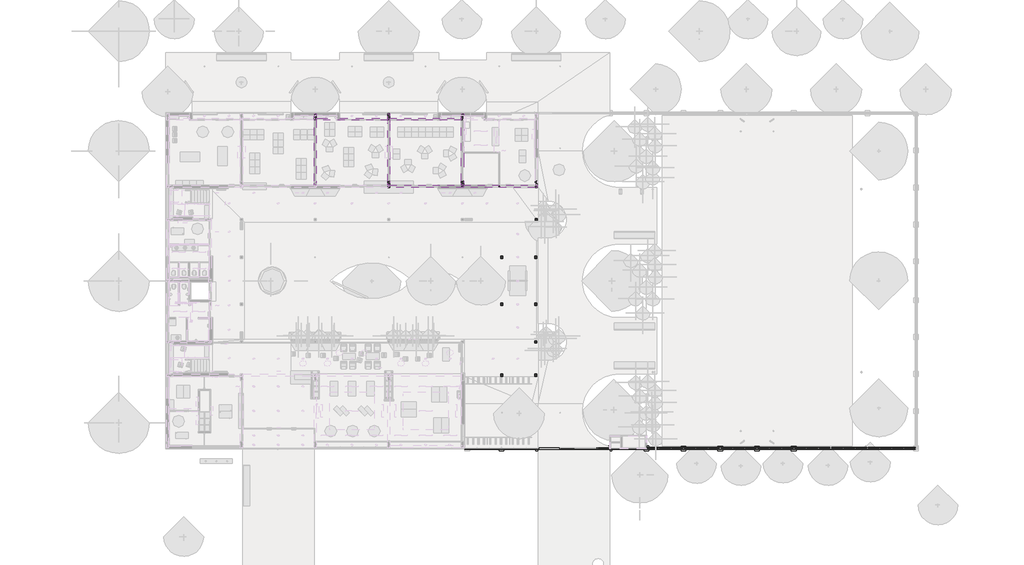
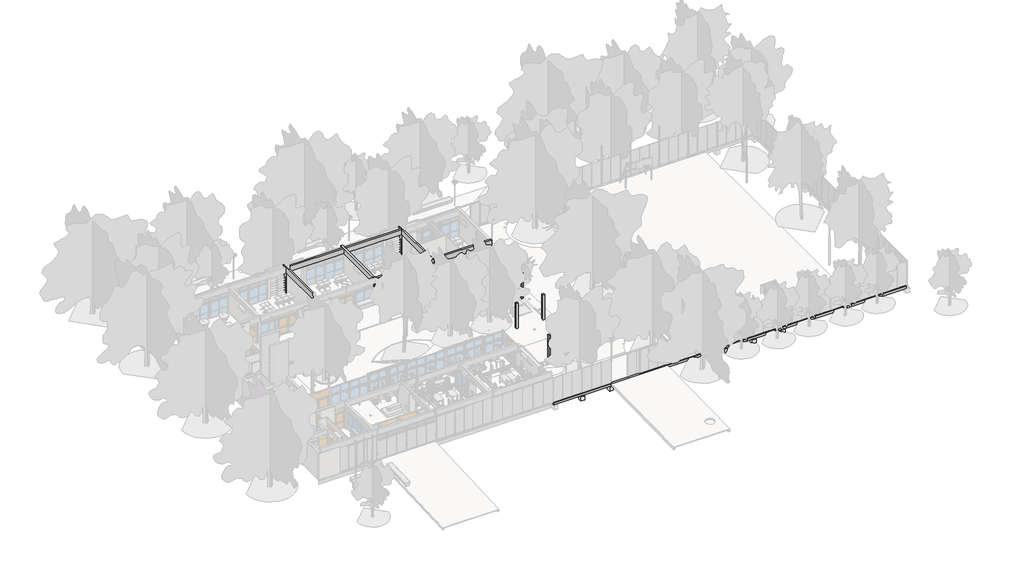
# One storey, part 15 of 22: 26 beams, 17 columns, 9 slabs.
"""IFC4 building model written with IfcOpenShell, lengths in millimetres."""

import ifcopenshell
import ifcopenshell.guid

model = None  # the IFC model being written
_history = None  # IfcOwnerHistory: only IFC2X3 demands one
_inside = {}  # id of a spatial element -> (the spatial element, [elements in it])
_under = {}  # id of a project, library or spatial element -> (it, [spatial elements below it])
_declared = {}  # id of a project -> (the project, [libraries it declares])
_typed = {}  # id of a type object -> (the type object, [elements of that type])
_made_of = {}  # id of a material, layer set ... -> (it, [elements and type objects made of it])


def new_model(schema):
    """Start an empty IFC model of exactly this schema.

    Asked for "IFC4X3", IfcOpenShell would pick the latest addendum, in which some entities
    have other attributes; the version numbers below select the first issue.
    IFC2X3 requires an IfcOwnerHistory on every rooted entity: one is made here for all.
    """
    global model, _history
    if schema == "IFC4X3":
        model = ifcopenshell.file(schema_version=(4, 3, 0, 0))
    else:
        model = ifcopenshell.file(schema=schema)
    _inside.clear()
    _under.clear()
    _declared.clear()
    _typed.clear()
    _made_of.clear()
    _history = None
    if model.schema == "IFC2X3":
        org = make("IfcOrganization", Name="unknown")
        user = make(
            "IfcPersonAndOrganization",
            ThePerson=make("IfcPerson", FamilyName="unknown"),
            TheOrganization=org,
        )
        app = make(
            "IfcApplication",
            ApplicationDeveloper=org,
            Version="unknown",
            ApplicationFullName="unknown",
            ApplicationIdentifier="unknown",
        )
        _history = make(
            "IfcOwnerHistory",
            OwningUser=user,
            OwningApplication=app,
            ChangeAction="ADDED",
            CreationDate=0,
        )
    return model


def make(cls, **values):
    """One entity of the class cls with the attributes given. An attribute that is None is left unset."""
    return model.create_entity(
        cls, **{name: value for name, value in values.items() if value is not None}
    )


def rooted(cls, **values):
    """An entity with a GlobalId (a new one), such as an element, a storey or a relation."""
    return make(cls, GlobalId=ifcopenshell.guid.new(), OwnerHistory=_history, **values)


def si_unit(unit_type, name, prefix=None):
    """IfcSIUnit, for example si_unit("LENGTHUNIT", "METRE", prefix="MILLI")."""
    return make("IfcSIUnit", UnitType=unit_type, Prefix=prefix, Name=name)


def assignment(units):
    """IfcUnitAssignment: the units of a project."""
    return None if units is None else make("IfcUnitAssignment", Units=units)


def point(xyz):
    """IfcCartesianPoint."""
    return None if xyz is None else make("IfcCartesianPoint", Coordinates=xyz)


def direction(xyz):
    """IfcDirection."""
    return None if xyz is None else make("IfcDirection", DirectionRatios=xyz)


def frame(location, z_axis=None, x_axis=None):
    """IfcAxis2Placement3D, a coordinate frame: its origin and axes. An axis left out is left unset."""
    return make(
        "IfcAxis2Placement3D",
        Location=point(location),
        Axis=direction(z_axis),
        RefDirection=direction(x_axis),
    )


def origin():
    """The frame at (0, 0, 0) with its axes left unset."""
    return frame((0.0, 0.0, 0.0))


def origin_with_axes():
    """The frame at (0, 0, 0) with the z axis (0, 0, 1) and the x axis (1, 0, 0) written out."""
    return frame((0.0, 0.0, 0.0), z_axis=(0.0, 0.0, 1.0), x_axis=(1.0, 0.0, 0.0))


def place(relative_to, where):
    """IfcLocalPlacement: puts the frame where relative to a parent placement (None: the world)."""
    return make(
        "IfcLocalPlacement", PlacementRelTo=relative_to, RelativePlacement=where
    )


def context(
    kind, dimensions, precision=None, world=None, true_north=None, identifier=None
):
    """IfcGeometricRepresentationContext, for example the 3D "Model" context."""
    return make(
        "IfcGeometricRepresentationContext",
        ContextIdentifier=identifier,
        ContextType=kind,
        CoordinateSpaceDimension=dimensions,
        Precision=precision,
        WorldCoordinateSystem=world,
        TrueNorth=true_north,
    )


def project(units=None, contexts=None):
    """IfcProject with its units and contexts."""
    return rooted(
        "IfcProject",
        Name="project",
        RepresentationContexts=contexts,
        UnitsInContext=assignment(units),
    )


def spatial(cls, under=None, at=None, **own):
    """A site, building, storey or space (cls), placed at a placement, below another one or the project."""
    s = rooted(cls, ObjectPlacement=at, **own)
    if under is not None:
        _under.setdefault(under.id(), (under, []))[1].append(s)
    return s


def polyline(points):
    """IfcPolyline through the points."""
    return make("IfcPolyline", Points=[point(p) for p in points])


def outline(outer, holes=None, kind="AREA"):
    """IfcArbitraryClosedProfileDef: a profile drawn as a closed curve; with holes, ...WithVoids."""
    if holes is None:
        return make("IfcArbitraryClosedProfileDef", ProfileType=kind, OuterCurve=outer)
    return make(
        "IfcArbitraryProfileDefWithVoids",
        ProfileType=kind,
        OuterCurve=outer,
        InnerCurves=holes,
    )


def extrude(swept, where, along, depth):
    """IfcExtrudedAreaSolid: the profile swept, set in the frame where, extruded along a direction by depth."""
    return make(
        "IfcExtrudedAreaSolid",
        SweptArea=swept,
        Position=where,
        ExtrudedDirection=direction(along),
        Depth=depth,
    )


def faces_of(points, faces, orient=None, outer=None):
    """IfcFace entities. A face is a list of loops; a loop is a list of indices into points, from 0.

    orient and outer hold one flag for each loop. By default every Orientation is true, the
    first loop of a face is its IfcFaceOuterBound and the others are IfcFaceBound.
    """
    made = []
    for i, loops in enumerate(faces):
        bounds = []
        for j, loop in enumerate(loops):
            is_outer = j == 0 if outer is None else outer[i][j]
            bounds.append(
                make(
                    "IfcFaceOuterBound" if is_outer else "IfcFaceBound",
                    Bound=make("IfcPolyLoop", Polygon=[points[k] for k in loop]),
                    Orientation=True if orient is None else orient[i][j],
                )
            )
        made.append(make("IfcFace", Bounds=bounds))
    return made


def faceted_brep(points, faces, orient=None, outer=None, voids=None):
    """IfcFacetedBrep: a solid bounded by flat faces; with voids (closed shells), ...WithVoids."""
    shared = [point(p) for p in points]
    hull = make("IfcClosedShell", CfsFaces=faces_of(shared, faces, orient, outer))
    if voids is None:
        return make("IfcFacetedBrep", Outer=hull)
    return make(
        "IfcFacetedBrepWithVoids",
        Outer=hull,
        Voids=[
            make(cls, CfsFaces=faces_of(shared, fs, o, b)) for cls, fs, o, b in voids
        ],
    )


def shape(context_of_items, identifier, shape_type, items):
    """IfcShapeRepresentation: the items that make up one representation, for example the "Body"."""
    return make(
        "IfcShapeRepresentation",
        ContextOfItems=context_of_items,
        RepresentationIdentifier=identifier,
        RepresentationType=shape_type,
        Items=items,
    )


def made_of(thing, what):
    """Note that an element or type object is made of a material, layer set ...; save() writes the relation."""
    if what is not None:
        _made_of.setdefault(what.id(), (what, []))[1].append(thing)
    return thing


def element(
    cls,
    number,
    at=None,
    inside=None,
    cuts=None,
    type_object=None,
    material=None,
    context=None,
    identifier="Body",
    shape_type=None,
    held_by="IfcProductDefinitionShape",
    body=None,
    shapes=None,
    **own,
):
    """One element of the class cls, such as IfcWall. Its Tag is "e" and its number.

    at: its placement. inside: the storey or other place that contains it. cuts: it is an
    opening in that element (IfcRelVoidsElement). A single representation is given by context,
    identifier, shape_type and body (its items); several are given by shapes. held_by: the class
    of the entity that holds the representations. save() writes the other relations.
    """
    e = rooted(cls, Tag="e%d" % number, ObjectPlacement=at, **own)
    if body is not None:
        shapes = [shape(context, identifier, shape_type, body)]
    if shapes is not None:
        e.Representation = make(held_by, Representations=shapes)
    if inside is not None:
        _inside.setdefault(inside.id(), (inside, []))[1].append(e)
    if cuts is not None:
        rooted(
            "IfcRelVoidsElement", RelatingBuildingElement=cuts, RelatedOpeningElement=e
        )
    if type_object is not None:
        _typed.setdefault(type_object.id(), (type_object, []))[1].append(e)
    return made_of(e, material)


def aggregate(whole, parts):
    """IfcRelAggregates: a whole, such as a stair, and the parts it consists of."""
    return rooted("IfcRelAggregates", RelatingObject=whole, RelatedObjects=parts)


def save(model, path):
    """Write the relations noted so far, then the file.

    IfcRelAggregates (storeys below a building ...), IfcRelContainedInSpatialStructure (elements
    in a storey), IfcRelDefinesByType, IfcRelAssociatesMaterial and IfcRelDeclares: one each for
    every whole, place, type object, material and project.
    """
    for whole, parts in _under.values():
        aggregate(whole, parts)
    for where, things in _inside.values():
        rooted(
            "IfcRelContainedInSpatialStructure",
            RelatedElements=things,
            RelatingStructure=where,
        )
    for kind, things in _typed.values():
        rooted("IfcRelDefinesByType", RelatedObjects=things, RelatingType=kind)
    for what, things in _made_of.values():
        rooted("IfcRelAssociatesMaterial", RelatedObjects=things, RelatingMaterial=what)
    for by, libraries in _declared.values():
        rooted("IfcRelDeclares", RelatingContext=by, RelatedDefinitions=libraries)
    model.write(path)


model = new_model("IFC4")

# Units and contexts
model_context = context("Model", 3, world=origin())
ifc_project = project(units=[si_unit("LENGTHUNIT", "METRE", prefix="MILLI")], contexts=[model_context])

# Site, building, storey
site = spatial("IfcSite", under=ifc_project)
building = spatial("IfcBuilding", under=site)
storey = spatial("IfcBuildingStorey", under=building, Name="PLanta baja", Elevation=0.0)

# Beams
placement = place(None, origin())
element("IfcBeam", 1, ObjectType="ARES-I-HA-Viga rectangular-PET : EXT 200 x 300 mm", at=placement, inside=storey, context=model_context, shape_type="Brep", body=[
    faceted_brep([(31118.8673693, 160.2304035, -350.0), (31118.8673693, 160.2304035, -56.0237526), (31118.8673693, 160.2304035, -50.0), (31118.8673693, 360.2304035, -50.0), (31118.8673693, 360.2304035, -54.9889981), (31118.8673693, 360.2304035, -90.0), (31118.8673693, 360.2304035, -140.0), (31118.8673693, 360.2304035, -350.0), (73288.7173693, 160.2304035, -50.0), (73288.7173693, 360.2304035, -50.0), (48058.7173693, 360.2304035, -50.0), (48058.7173693, 310.2304035, -50.0), (44788.7173693, 310.2304035, -50.0), (44788.7173693, 360.2304035, -50.0), (44688.7173693, 360.2304035, -50.0), (37998.4930104, 360.2304035, -50.0), (44788.7173693, 360.2304035, -54.9017631), (44788.7173693, 360.2304035, -80.0), (48058.7173693, 360.2304035, -80.0), (48058.7173693, 360.2304035, -52.5661791), (73288.7173693, 360.2304035, -54.6606618), (73288.7173693, 360.2304035, -350.0), (44395.985253, 360.2304035, -350.0), (37998.4930104, 360.2304035, -350.0), (73288.7173693, 160.2304035, -350.0), (44788.7173693, 310.2304035, -80.0), (48058.7173693, 310.2304035, -80.0)], [[[0, 1, 2, 3, 4, 5, 6, 7]], [[3, 2, 8, 9, 10, 11, 12, 13, 14, 15]], [[7, 6, 5, 4, 3, 15, 14, 13, 16, 17, 18, 19, 10, 9, 20, 21, 22, 23]], [[0, 7, 23, 22, 21, 24]], [[2, 1, 0, 24, 8]], [[9, 8, 24, 21, 20]], [[25, 26, 18, 17]], [[18, 26, 11, 10, 19]], [[26, 25, 12, 11]], [[25, 17, 16, 13, 12]]]),
])
element("IfcBeam", 2, ObjectType="ARES-I-HA-Viga rectangular-PET : Viga-15x36cm-PET", at=placement, inside=storey, context=model_context, shape_type="Brep", body=[
    faceted_brep([(23888.7423694, 28245.2304035, -50.0), (23888.7423694, 28095.2304035, -50.0), (23888.7423694, 28095.2304035, -160.0), (23888.7423694, 28095.2304035, -410.0), (23888.7423694, 28245.2304035, -410.0), (23888.7423694, 28245.2304035, -160.0), (20613.7173694, 28245.2304035, -50.0), (20463.7173694, 28245.2304035, -50.0), (17188.7173694, 28245.2304035, -50.0), (17188.7173694, 28095.2304035, -50.0), (20463.7173694, 28095.2304035, -50.0), (20613.7173694, 28095.2304035, -50.0), (17188.7173694, 28095.2304035, -410.0), (20463.7173694, 28095.2304035, -410.0), (20613.7173694, 28095.2304035, -410.0), (17188.7173694, 28095.2304035, -160.0), (17188.7173694, 28245.2304035, -410.0), (20463.7173694, 28245.2304035, -410.0), (20613.7173694, 28245.2304035, -410.0), (17188.7173694, 28245.2304035, -160.0)], [[[0, 1, 2, 3, 4, 5]], [[1, 0, 6, 7, 8, 9, 10, 11]], [[12, 13, 14, 3, 2, 1, 11, 10, 9, 15]], [[4, 3, 14, 13, 12, 16, 17, 18]], [[4, 18, 17, 16, 19, 8, 7, 6, 0, 5]], [[9, 8, 19, 16, 12, 15]]]),
])
element("IfcBeam", 3, ObjectType="ARES-I-HA-Viga rectangular-PET : Viga-15x36cm-PET", at=placement, inside=storey, context=model_context, shape_type="Brep", body=[
    faceted_brep([(20613.7173694, 28095.2304035, -50.0), (20463.7173694, 28095.2304035, -50.0), (20463.7173694, 24920.2304035, -50.0), (20613.7173694, 24920.2304035, -50.0), (20463.7173694, 28095.2304035, -160.0), (20463.7173694, 28095.2304035, -410.0), (20463.7173694, 24920.2304035, -410.0), (20463.7173694, 24920.2304035, -160.0), (20613.7173694, 28095.2304035, -410.0), (20613.7173694, 24920.2304035, -410.0), (20613.7173694, 24920.2304035, -160.0), (20613.7173694, 28095.2304035, -160.0)], [[[0, 1, 2, 3]], [[2, 1, 4, 5, 6, 7]], [[5, 8, 9, 6]], [[0, 3, 10, 9, 8, 11]], [[8, 5, 4, 1, 0, 11]], [[3, 2, 7, 6, 9, 10]]]),
    faceted_brep([(20463.7173694, 28245.2304035, -410.0), (20613.7173694, 28245.2304035, -410.0), (20613.7173694, 28245.2304035, -160.0), (20613.7173694, 28245.2304035, -50.0), (20463.7173694, 28245.2304035, -50.0), (20463.7173694, 28245.2304035, -160.0), (20463.7173694, 31420.2304035, -50.0), (20463.7173694, 31420.2304035, -160.0), (20463.7173694, 31420.2304035, -410.0), (20613.7173694, 31420.2304035, -410.0), (20613.7173694, 31420.2304035, -160.0), (20613.7173694, 31420.2304035, -50.0)], [[[0, 1, 2, 3, 4, 5]], [[4, 6, 7, 8, 0, 5]], [[1, 0, 8, 9]], [[1, 9, 10, 11, 3, 2]], [[4, 3, 11, 6]], [[9, 8, 7, 6, 11, 10]]]),
])
element("IfcBeam", 4, ObjectType="ARES-I-HA-Viga rectangular-PET : Viga-15x36cm-PET", at=placement, inside=storey, context=model_context, shape_type="Brep", body=[
    faceted_brep([(30788.7423694, 28245.2304035, -50.0), (30788.7423694, 28095.2304035, -50.0), (30788.7423694, 28095.2304035, -160.0), (30788.7423694, 28095.2304035, -410.0), (30788.7423694, 28245.2304035, -410.0), (30788.7423694, 28245.2304035, -160.0), (27513.7173693, 28245.2304035, -50.0), (27363.7173693, 28245.2304035, -50.0), (24088.7173694, 28245.2304035, -50.0), (24088.7173694, 28095.2304035, -50.0), (27363.7173693, 28095.2304035, -50.0), (27513.7173693, 28095.2304035, -50.0), (24088.7173694, 28095.2304035, -410.0), (27363.7173693, 28095.2304035, -410.0), (27513.7173693, 28095.2304035, -410.0), (24088.7173694, 28095.2304035, -160.0), (24088.7173694, 28245.2304035, -410.0), (27363.7173693, 28245.2304035, -410.0), (27513.7173693, 28245.2304035, -410.0), (24088.7173694, 28245.2304035, -160.0)], [[[0, 1, 2, 3, 4, 5]], [[1, 0, 6, 7, 8, 9, 10, 11]], [[12, 13, 14, 3, 2, 1, 11, 10, 9, 15]], [[4, 3, 14, 13, 12, 16, 17, 18]], [[4, 18, 17, 16, 19, 8, 7, 6, 0, 5]], [[9, 8, 19, 16, 12, 15]]]),
])
element("IfcBeam", 5, ObjectType="ARES-I-HA-Viga rectangular-PET : Viga-15x36cm-PET", at=placement, inside=storey, context=model_context, shape_type="Brep", body=[
    faceted_brep([(27513.7173693, 28095.2304035, -50.0), (27363.7173693, 28095.2304035, -50.0), (27363.7173693, 24920.2304035, -50.0), (27513.7173693, 24920.2304035, -50.0), (27363.7173693, 28095.2304035, -160.0), (27363.7173693, 28095.2304035, -410.0), (27363.7173693, 24920.2304035, -410.0), (27363.7173693, 24920.2304035, -160.0), (27513.7173693, 28095.2304035, -410.0), (27513.7173693, 24920.2304035, -410.0), (27513.7173693, 24920.2304035, -160.0), (27513.7173693, 28095.2304035, -160.0)], [[[0, 1, 2, 3]], [[2, 1, 4, 5, 6, 7]], [[5, 8, 9, 6]], [[0, 3, 10, 9, 8, 11]], [[8, 5, 4, 1, 0, 11]], [[3, 2, 7, 6, 9, 10]]]),
    faceted_brep([(27363.7173693, 28245.2304035, -410.0), (27513.7173693, 28245.2304035, -410.0), (27513.7173693, 28245.2304035, -160.0), (27513.7173693, 28245.2304035, -50.0), (27363.7173693, 28245.2304035, -50.0), (27363.7173693, 28245.2304035, -160.0), (27363.7173693, 31420.2304035, -50.0), (27363.7173693, 31420.2304035, -160.0), (27363.7173693, 31420.2304035, -410.0), (27513.7173693, 31420.2304035, -410.0), (27513.7173693, 31420.2304035, -160.0), (27513.7173693, 31420.2304035, -50.0)], [[[0, 1, 2, 3, 4, 5]], [[4, 6, 7, 8, 0, 5]], [[1, 0, 8, 9]], [[1, 9, 10, 11, 3, 2]], [[4, 3, 11, 6]], [[9, 8, 7, 6, 11, 10]]]),
])
element("IfcBeam", 6, ObjectType="ARES-I-HA-Viga rectangular-PET : Viga-15x36cm-PET", at=placement, inside=storey, context=model_context, shape_type="Brep", body=[
    faceted_brep([(34413.7173693, 24720.2304035, -80.0), (34263.7173693, 24720.2304035, -80.0), (34263.7173693, 21820.2304035, -80.0), (34413.7173693, 21820.2304035, -80.0), (34263.7173693, 24720.2304035, -190.0), (34263.7173693, 24720.2304035, -440.0), (34263.7173693, 21820.2304035, -440.0), (34263.7173693, 21820.2304035, -190.0), (34413.7173693, 24720.2304035, -440.0), (34413.7173693, 21820.2304035, -440.0), (34413.7173693, 21820.2304035, -190.0), (34413.7173693, 24720.2304035, -190.0)], [[[0, 1, 2, 3]], [[2, 1, 4, 5, 6, 7]], [[5, 8, 9, 6]], [[0, 3, 10, 9, 8, 11]], [[1, 0, 11, 8, 5, 4]], [[3, 2, 7, 6, 9, 10]]]),
])
element("IfcBeam", 7, ObjectType="ARES-I-HA-Viga rectangular-PET : Viga-20x40cm-PET", at=placement, inside=storey, context=model_context, shape_type="Brep", body=[
    faceted_brep([(30788.7173693, 10320.2304035, -300.0), (30788.7173693, 10120.2304035, -300.0), (30988.7173693, 10120.2304035, -300.0), (31098.7173693, 10120.2304035, -300.0), (34488.7173693, 10120.2304035, -300.0), (34688.7173693, 10120.2304035, -300.0), (37648.7173693, 10120.2304035, -300.0), (37648.7173693, 10320.2304035, -300.0), (34688.7173693, 10320.2304035, -300.0), (34488.7173693, 10320.2304035, -300.0), (31098.7173693, 10320.2304035, -300.0), (30988.7173693, 10320.2304035, -300.0), (30788.7173693, 10120.2304035, -550.0), (30788.7173693, 10120.2304035, -650.0), (30788.7173693, 10120.2304035, -700.0), (34488.7173693, 10120.2304035, -700.0), (34688.7173693, 10120.2304035, -700.0), (37648.7173693, 10120.2304035, -700.0), (30788.7173693, 10320.2304035, -700.0), (34488.7173693, 10320.2304035, -700.0), (34688.7173693, 10320.2304035, -700.0), (37648.7173693, 10320.2304035, -700.0), (30788.7173693, 10320.2304035, -650.0)], [[[0, 1, 2, 3, 4, 5, 6, 7, 8, 9, 10, 11]], [[1, 12, 13, 14, 15, 16, 17, 6, 5, 4, 3, 2]], [[14, 18, 19, 20, 21, 17, 16, 15]], [[18, 22, 0, 11, 10, 9, 8, 7, 21, 20, 19]], [[1, 0, 22, 18, 14, 13, 12]], [[7, 6, 17, 21]]]),
])
element("IfcBeam", 8, ObjectType="ARES-I-HA-Viga rectangular-PET : Viga-20x40cm-PET", at=placement, inside=storey, context=model_context, shape_type="Brep", body=[
    faceted_brep([(30988.7173693, 7220.2304035, -300.0), (30988.7173693, 7020.2304035, -300.0), (34488.7173693, 7020.2304035, -300.0), (34688.7173693, 7020.2304035, -300.0), (37648.7173693, 7020.2304035, -300.0), (37648.7173693, 7220.2304035, -300.0), (34688.7173693, 7220.2304035, -300.0), (34488.7173693, 7220.2304035, -300.0), (31098.7173693, 7220.2304035, -300.0), (30988.7173693, 7020.2304035, -700.0), (37648.7173693, 7020.2304035, -700.0), (30988.7173693, 7220.2304035, -700.0), (34488.7173693, 7220.2304035, -700.0), (34688.7173693, 7220.2304035, -700.0), (37648.7173693, 7220.2304035, -700.0), (30988.7173693, 7220.2304035, -550.0), (30988.7173693, 7220.2304035, -510.0)], [[[0, 1, 2, 3, 4, 5, 6, 7, 8]], [[1, 9, 10, 4, 3, 2]], [[9, 11, 12, 13, 14, 10]], [[11, 15, 16, 0, 8, 7, 6, 5, 14, 13, 12]], [[0, 16, 15, 11, 9, 1]], [[5, 4, 10, 14]]]),
])
element("IfcBeam", 9, ObjectType="ARES-I-HA-Viga rectangular-PET : Viga-20x40cm-PET", at=placement, inside=storey, context=model_context, shape_type="SweptSolid", body=[
    extrude(outline(polyline([(34488.7173693, 10120.2304035), (34688.7173693, 10120.2304035), (34688.7173693, 7220.2304035), (34488.7173693, 7220.2304035), (34488.7173693, 10120.2304035)])), frame((0.0, 0.0, -700.0), z_axis=(0.0, 0.0, 1.0), x_axis=(1.0, 0.0, 0.0)), (0.0, 0.0, 1.0), 400.0),
])
element("IfcBeam", 10, ObjectType="ARES-I-HA-Viga rectangular-PET : Viga-20x40cm-PET", at=placement, inside=storey, context=model_context, shape_type="Brep", body=[
    faceted_brep([(37748.7173693, 13670.2304035, -300.0), (37748.7173693, 13870.2304035, -300.0), (37648.7173693, 13870.2304035, -300.0), (34688.7173693, 13870.2304035, -300.0), (34588.7173693, 13870.2304035, -300.0), (34588.7173693, 13670.2304035, -300.0), (34688.7173693, 13670.2304035, -300.0), (37648.7173693, 13670.2304035, -300.0), (37748.7173693, 13670.2304035, -700.0), (34588.7173693, 13670.2304035, -700.0), (34688.7173693, 13670.2304035, -700.0), (37648.7173693, 13670.2304035, -700.0), (37748.7173693, 13870.2304035, -700.0), (34588.7173693, 13870.2304035, -700.0), (34688.7173693, 13870.2304035, -700.0), (37648.7173693, 13870.2304035, -700.0)], [[[0, 1, 2, 3, 4, 5, 6, 7]], [[8, 0, 7, 6, 5, 9, 10, 11]], [[12, 8, 11, 10, 9, 13, 14, 15]], [[1, 12, 15, 14, 13, 4, 3, 2]], [[4, 13, 9, 5]], [[1, 0, 8, 12]]]),
])
element("IfcBeam", 11, ObjectType="ARES-I-HA-Viga rectangular-PET : Viga-20x40cm-PET", at=placement, inside=storey, context=model_context, shape_type="SweptSolid", body=[
    extrude(outline(polyline([(34688.7173693, 18070.2304035), (34688.7173693, 18270.2304035), (37648.7173693, 18270.2304035), (37648.7173693, 18070.2304035), (34688.7173693, 18070.2304035)])), frame((0.0, 0.0, -700.0), z_axis=(0.0, 0.0, 1.0), x_axis=(1.0, 0.0, 0.0)), (0.0, 0.0, 1.0), 400.0),
])
element("IfcBeam", 12, ObjectType="ARES-I-HA-Viga rectangular-PET : Viga-20x45cm-PET", at=placement, inside=storey, context=model_context, shape_type="Brep", body=[
    faceted_brep([(37848.7173693, 10320.2304035, -300.0), (37648.7173693, 10320.2304035, -300.0), (37648.7173693, 10120.2304035, -300.0), (37648.7173693, 7220.2304035, -300.0), (37648.7173693, 7020.2304035, -300.0), (37848.7173693, 7020.2304035, -300.0), (37848.7173693, 7220.2304035, -300.0), (37848.7173693, 10120.2304035, -300.0), (37848.7173693, 10320.2304035, -750.0), (37848.7173693, 7020.2304035, -750.0), (37648.7173693, 10320.2304035, -750.0), (37648.7173693, 7020.2304035, -750.0), (37648.7173693, 10320.2304035, -700.0), (37648.7173693, 7020.2304035, -700.0)], [[[0, 1, 2, 3, 4, 5, 6, 7]], [[8, 0, 7, 6, 5, 9]], [[10, 8, 9, 11]], [[1, 12, 10, 11, 13, 4, 3, 2]], [[1, 0, 8, 10, 12]], [[5, 4, 13, 11, 9]]]),
])
element("IfcBeam", 13, ObjectType="ARES-I-HA-Viga rectangular-PET : Viga-20x45cm-PET", at=placement, inside=storey, context=model_context, shape_type="Brep", body=[
    faceted_brep([(34688.7173693, 18270.2304035, -300.0), (34488.7173693, 18270.2304035, -300.0), (34488.7173693, 13870.2304035, -300.0), (34488.7173693, 13670.2304035, -300.0), (34488.7173693, 10320.2304035, -300.0), (34688.7173693, 10320.2304035, -300.0), (34688.7173693, 13670.2304035, -300.0), (34588.7173693, 13670.2304035, -300.0), (34588.7173693, 13870.2304035, -300.0), (34688.7173693, 13870.2304035, -300.0), (34688.7173693, 18070.2304035, -300.0), (34488.7173693, 18270.2304035, -750.0), (34488.7173693, 10120.2304035, -750.0), (34488.7173693, 10120.2304035, -700.0), (34488.7173693, 10320.2304035, -700.0), (34688.7173693, 18270.2304035, -750.0), (34688.7173693, 10120.2304035, -750.0), (34688.7173693, 18270.2304035, -700.0), (34688.7173693, 13870.2304035, -700.0), (34688.7173693, 13670.2304035, -700.0), (34688.7173693, 10320.2304035, -700.0), (34688.7173693, 10120.2304035, -700.0), (34588.7173693, 13670.2304035, -700.0), (34588.7173693, 13870.2304035, -700.0)], [[[0, 1, 2, 3, 4, 5, 6, 7, 8, 9, 10]], [[1, 11, 12, 13, 14, 4, 3, 2]], [[11, 15, 16, 12]], [[15, 17, 0, 10, 9, 18, 19, 6, 5, 20, 21, 16]], [[1, 0, 17, 15, 11]], [[12, 16, 21, 13]], [[14, 13, 21, 20]], [[5, 4, 14, 20]], [[22, 7, 6, 19]], [[23, 22, 19, 18]], [[8, 23, 18, 9]], [[7, 22, 23, 8]]]),
])
element("IfcBeam", 14, ObjectType="ARES-I-HA-Viga rectangular-PET : Viga-20x45cm-PET", at=placement, inside=storey, context=model_context, shape_type="Brep", body=[
    faceted_brep([(37848.7173693, 18270.2304035, -300.0), (37648.7173693, 18270.2304035, -300.0), (37648.7173693, 18070.2304035, -300.0), (37648.7173693, 13870.2304035, -300.0), (37748.7173693, 13870.2304035, -300.0), (37748.7173693, 13670.2304035, -300.0), (37648.7173693, 13670.2304035, -300.0), (37648.7173693, 10320.2304035, -300.0), (37848.7173693, 10320.2304035, -300.0), (37848.7173693, 13670.2304035, -300.0), (37848.7173693, 13870.2304035, -300.0), (37648.7173693, 18270.2304035, -700.0), (37648.7173693, 18270.2304035, -750.0), (37648.7173693, 10320.2304035, -750.0), (37648.7173693, 10320.2304035, -700.0), (37648.7173693, 13670.2304035, -700.0), (37648.7173693, 13870.2304035, -700.0), (37848.7173693, 18270.2304035, -750.0), (37848.7173693, 10320.2304035, -750.0), (37748.7173693, 13670.2304035, -700.0), (37748.7173693, 13870.2304035, -700.0)], [[[0, 1, 2, 3, 4, 5, 6, 7, 8, 9, 10]], [[1, 11, 12, 13, 14, 7, 6, 15, 16, 3, 2]], [[12, 17, 18, 13]], [[17, 0, 10, 9, 8, 18]], [[1, 0, 17, 12, 11]], [[5, 19, 15, 6]], [[19, 20, 16, 15]], [[20, 4, 3, 16]], [[19, 5, 4, 20]], [[8, 7, 14, 13, 18]]]),
])
element("IfcBeam", 15, ObjectType="ARES-I-HA-Viga rectangular-PET : Viga-20x50cm-PET", at=placement, inside=storey, context=model_context, shape_type="Brep", body=[
    faceted_brep([(37888.7173693, 24720.3804035, -80.0), (37688.7173693, 24720.3804035, -80.0), (37688.7173693, 21820.2304035, -80.0), (37888.7173693, 21820.2304035, -80.0), (37688.7173693, 24720.3804035, -190.0), (37688.7173693, 24720.3804035, -580.0), (37688.7173693, 21820.2304035, -580.0), (37688.7173693, 21820.2304035, -540.0), (37688.7173693, 21820.2304035, -190.0), (37888.7173693, 24720.3804035, -580.0), (37888.7173693, 21820.2304035, -580.0), (37888.7173693, 24720.3804035, -160.0), (37888.7173693, 21820.2304035, -190.0), (37888.7173693, 24720.3804035, -190.0)], [[[0, 1, 2, 3]], [[2, 1, 4, 5, 6, 7, 8]], [[5, 9, 10, 6]], [[11, 0, 3, 12, 10, 9, 13]], [[9, 5, 4, 1, 0, 11, 13]], [[3, 2, 8, 7, 6, 10, 12]]]),
])
element("IfcBeam", 16, ObjectType="ARES-I-HA-Viga rectangular-PET : Viga-20x65cm-PET", at=placement, inside=storey, context=model_context, shape_type="Brep", body=[
    faceted_brep([(17188.7173694, 31520.2304035, -50.0), (16988.7173694, 31520.2304035, -50.0), (16988.7173694, 31420.2304035, -50.0), (16988.7173694, 28245.2304035, -50.0), (16988.7173694, 28095.2304035, -50.0), (16988.7173694, 24920.2304035, -50.0), (16988.7173694, 24820.2304035, -50.0), (17188.7173694, 24820.2304035, -50.0), (17188.7173694, 24920.2304035, -50.0), (17188.7173694, 28095.2304035, -50.0), (17188.7173694, 28245.2304035, -50.0), (17188.7173694, 31420.2304035, -50.0), (16988.7173694, 31520.2304035, -700.0), (16988.7173694, 31420.2304035, -700.0), (16988.7173694, 24920.2304035, -700.0), (16988.7173694, 24820.2304035, -700.0), (17188.7173694, 31520.2304035, -700.0), (17188.7173694, 31420.2304035, -700.0), (17188.7173694, 24920.2304035, -700.0), (17188.7173694, 24820.2304035, -700.0)], [[[0, 1, 2, 3, 4, 5, 6, 7, 8, 9, 10, 11]], [[12, 13, 14, 15, 6, 5, 4, 3, 2, 1]], [[15, 14, 13, 12, 16, 17, 18, 19]], [[19, 18, 17, 16, 0, 11, 10, 9, 8, 7]], [[0, 16, 12, 1]], [[7, 6, 15, 19]]]),
])
element("IfcBeam", 17, ObjectType="ARES-I-HA-Viga rectangular-PET : Viga-20x65cm-PET", at=placement, inside=storey, context=model_context, shape_type="Brep", body=[
    faceted_brep([(23888.7173694, 24820.2304035, -50.0), (24088.7173694, 24820.2304035, -50.0), (24088.7173694, 24920.2304035, -50.0), (24088.7173694, 28095.2304035, -50.0), (24088.7173694, 28245.2304035, -50.0), (24088.7173694, 31420.2304035, -50.0), (24088.7173694, 31520.2304035, -50.0), (23888.7173694, 31520.2304035, -50.0), (23888.7173694, 31420.2304035, -50.0), (23888.7173694, 28245.2304035, -50.0), (23888.7173694, 28095.2304035, -50.0), (23888.7173694, 24920.2304035, -50.0), (23888.7173694, 31520.2304035, -700.0), (23888.7173694, 31420.2304035, -700.0), (23888.7173694, 24920.2304035, -700.0), (23888.7173694, 24820.2304035, -700.0), (24088.7173694, 31520.2304035, -700.0), (24088.7173694, 31420.2304035, -700.0), (24088.7173694, 24920.2304035, -700.0), (24088.7173694, 24820.2304035, -700.0)], [[[0, 1, 2, 3, 4, 5, 6, 7, 8, 9, 10, 11]], [[12, 13, 14, 15, 0, 11, 10, 9, 8, 7]], [[15, 14, 13, 12, 16, 17, 18, 19]], [[19, 18, 17, 16, 6, 5, 4, 3, 2, 1]], [[1, 0, 15, 19]], [[6, 16, 12, 7]]]),
])
element("IfcBeam", 18, ObjectType="ARES-I-HA-Viga rectangular-PET : Viga-20x65cm-PET", at=placement, inside=storey, context=model_context, shape_type="Brep", body=[
    faceted_brep([(30988.7173693, 31520.2304035, -50.0), (30788.7173693, 31520.2304035, -50.0), (30788.7173693, 31420.2304035, -50.0), (30788.7173693, 28245.2304035, -50.0), (30788.7173693, 28095.2304035, -50.0), (30788.7173693, 24920.2304035, -50.0), (30788.7173693, 24780.2304035, -50.0), (30988.7173693, 24780.2304035, -50.0), (30988.7173693, 24920.2304035, -50.0), (30988.7173693, 28095.2304035, -50.0), (30988.7173693, 28245.2304035, -50.0), (30988.7173693, 31420.2304035, -50.0), (30788.7173693, 31520.2304035, -700.0), (30788.7173693, 31420.2304035, -700.0), (30788.7173693, 24920.2304035, -700.0), (30788.7173693, 24780.2304035, -700.0), (30988.7173693, 31520.2304035, -700.0), (30988.7173693, 31420.2304035, -700.0), (30988.7173693, 24920.2304035, -700.0), (30988.7173693, 24780.2304035, -700.0)], [[[0, 1, 2, 3, 4, 5, 6, 7, 8, 9, 10, 11]], [[12, 13, 14, 15, 6, 5, 4, 3, 2, 1]], [[15, 14, 13, 12, 16, 17, 18, 19]], [[19, 18, 17, 16, 0, 11, 10, 9, 8, 7]], [[0, 16, 12, 1]], [[7, 6, 15, 19]]]),
])
element("IfcBeam", 19, ObjectType="ARES-I-HA-Viga rectangular-PET : Viga-20x65cm-PET", at=placement, inside=storey, context=model_context, shape_type="Brep", body=[
    faceted_brep([(3388.7173693, 24920.2304035, -50.0), (3388.7173693, 24720.2304035, -50.0), (7168.7173693, 24720.2304035, -50.0), (7368.7173693, 24720.2304035, -50.0), (10088.7173694, 24720.2304035, -50.0), (10288.7173694, 24720.2304035, -50.0), (16988.7173694, 24720.2304035, -50.0), (17188.7173694, 24720.2304035, -50.0), (23888.7173694, 24720.2304035, -50.0), (24088.7173694, 24720.2304035, -50.0), (30788.7173693, 24720.2304035, -50.0), (30988.7173693, 24720.2304035, -50.0), (37688.7173693, 24720.2304035, -50.0), (37688.7173693, 24920.2304035, -50.0), (34413.7173693, 24920.2304035, -50.0), (34263.7173693, 24920.2304035, -50.0), (30988.7173693, 24920.2304035, -50.0), (30988.7173693, 24780.2304035, -50.0), (30788.7173693, 24780.2304035, -50.0), (30788.7173693, 24920.2304035, -50.0), (27513.7173693, 24920.2304035, -50.0), (27363.7173693, 24920.2304035, -50.0), (24088.7173694, 24920.2304035, -50.0), (24088.7173694, 24820.2304035, -50.0), (23888.7173694, 24820.2304035, -50.0), (23888.7173694, 24920.2304035, -50.0), (20613.7173694, 24920.2304035, -50.0), (20463.7173694, 24920.2304035, -50.0), (17188.7173694, 24920.2304035, -50.0), (17188.7173694, 24820.2304035, -50.0), (16988.7173694, 24820.2304035, -50.0), (16988.7173694, 24920.2304035, -50.0), (13713.7173693, 24920.2304035, -50.0), (13563.7173693, 24920.2304035, -50.0), (10288.7173694, 24920.2304035, -50.0), (10288.7173694, 24820.2304035, -50.0), (10088.7173694, 24820.2304035, -50.0), (10088.7173694, 24920.2304035, -50.0), (6813.7173693, 24920.2304035, -50.0), (6663.7173693, 24920.2304035, -50.0), (10088.7173694, 24920.2304035, -700.0), (3388.7173693, 24920.2304035, -700.0), (3388.7173693, 24920.2304035, -510.0), (3388.7173693, 24920.2304035, -160.0), (10088.7173694, 24920.2304035, -160.0), (10088.7173694, 24920.2304035, -510.0), (3388.7173693, 24720.2304035, -700.0), (10088.7173694, 24820.2304035, -700.0), (10288.7173694, 24820.2304035, -700.0), (10288.7173694, 24920.2304035, -700.0), (16988.7173694, 24920.2304035, -700.0), (16988.7173694, 24820.2304035, -700.0), (17188.7173694, 24820.2304035, -700.0), (17188.7173694, 24920.2304035, -700.0), (23888.7173694, 24920.2304035, -700.0), (23888.7173694, 24820.2304035, -700.0), (24088.7173694, 24820.2304035, -700.0), (24088.7173694, 24920.2304035, -700.0), (30788.7173693, 24920.2304035, -700.0), (30788.7173693, 24780.2304035, -700.0), (30988.7173693, 24780.2304035, -700.0), (30988.7173693, 24920.2304035, -700.0), (37688.7173693, 24920.2304035, -700.0), (37688.7173693, 24720.2304035, -700.0), (7368.7173693, 24720.2304035, -700.0), (3388.7173693, 24720.2304035, -450.0), (3388.7173693, 24720.2304035, -560.0), (37688.7173693, 24720.2304035, -580.0), (37688.7173693, 24720.2304035, -540.0), (37688.7173693, 24720.2304035, -190.0), (37688.7173693, 24720.2304035, -80.0), (37688.7173693, 24920.2304035, -510.0), (37688.7173693, 24920.2304035, -160.0), (16988.7173694, 24920.2304035, -510.0), (16988.7173694, 24920.2304035, -160.0), (17188.7173694, 24920.2304035, -160.0), (17188.7173694, 24920.2304035, -510.0), (23888.7173694, 24920.2304035, -160.0), (23888.7173694, 24920.2304035, -510.0), (30788.7173693, 24920.2304035, -510.0), (30788.7173693, 24920.2304035, -160.0), (30988.7173693, 24920.2304035, -160.0), (30988.7173693, 24920.2304035, -510.0), (10288.7173694, 24920.2304035, -160.0), (10288.7173694, 24920.2304035, -510.0), (24088.7173694, 24920.2304035, -160.0), (24088.7173694, 24920.2304035, -510.0)], [[[0, 1, 2, 3, 4, 5, 6, 7, 8, 9, 10, 11, 12, 13, 14, 15, 16, 17, 18, 19, 20, 21, 22, 23, 24, 25, 26, 27, 28, 29, 30, 31, 32, 33, 34, 35, 36, 37, 38, 39]], [[40, 41, 42, 43, 0, 39, 38, 37, 44, 45]], [[46, 41, 40, 47, 48, 49, 50, 51, 52, 53, 54, 55, 56, 57, 58, 59, 60, 61, 62, 63, 64]], [[1, 65, 66, 46, 64, 63, 67, 68, 69, 70, 12, 11, 10, 9, 8, 7, 6, 5, 4, 3, 2]], [[1, 0, 43, 42, 41, 46, 66, 65]], [[12, 70, 69, 68, 67, 63, 62, 71, 72, 13]], [[31, 30, 51, 50, 73, 74]], [[29, 28, 75, 76, 53, 52]], [[54, 53, 76, 75, 28, 27, 26, 25, 77, 78]], [[51, 30, 29, 52]], [[19, 18, 59, 58, 79, 80]], [[17, 16, 81, 82, 61, 60]], [[59, 18, 17, 60]], [[36, 47, 40, 45, 44, 37]], [[48, 35, 34, 83, 84, 49]], [[47, 36, 35, 48]], [[24, 55, 54, 78, 77, 25]], [[56, 23, 22, 85, 86, 57]], [[55, 24, 23, 56]], [[62, 61, 82, 81, 16, 15, 14, 13, 72, 71]], [[50, 49, 84, 83, 34, 33, 32, 31, 74, 73]], [[58, 57, 86, 85, 22, 21, 20, 19, 80, 79]]]),
])
element("IfcBeam", 20, ObjectType="ARES-I-HA-Viga rectangular-PET : Viga-20x66cm-PET", at=placement, inside=storey, context=model_context, shape_type="Brep", body=[
    faceted_brep([(30988.7173693, 24720.2304035, 3260.0), (30988.7173693, 24920.2304035, 3260.0), (30788.7173693, 24920.2304035, 3260.0), (24088.7173694, 24920.2304035, 3260.0), (24001.4173694, 24920.2304035, 3260.0), (24001.4173694, 24720.2304035, 3260.0), (24001.4173694, 24720.2304035, 2600.0), (30988.7173693, 24720.2304035, 2600.0), (30988.7173693, 24720.2304035, 3100.0), (24001.4173694, 24720.2304035, 3100.0), (30988.7173693, 24920.2304035, 2600.0), (24001.4173694, 24920.2304035, 2600.0), (30988.7173693, 24920.2304035, 3100.0)], [[[0, 1, 2, 3, 4, 5]], [[6, 7, 8, 0, 5, 9]], [[10, 7, 6, 11]], [[11, 4, 3, 2, 1, 12, 10]], [[1, 0, 8, 7, 10, 12]], [[11, 6, 9, 5, 4]]]),
])
element("IfcBeam", 21, ObjectType="ARES-I-HA-Viga rectangular-PET : Viga-20x66cm-PET", at=placement, inside=storey, context=model_context, shape_type="Brep", body=[
    faceted_brep([(37888.7173693, 24720.2304035, 3260.0), (37888.7173693, 24920.2304035, 3260.0), (37688.7173693, 24920.2304035, 3260.0), (30988.7173693, 24920.2304035, 3260.0), (30988.7173693, 24720.2304035, 3260.0), (37688.7173693, 24720.2304035, 3260.0), (37888.7173693, 24720.2304035, 2600.0), (37888.7173693, 24720.2304035, 3100.0), (30988.7173693, 24720.2304035, 3100.0), (30988.7173693, 24720.2304035, 2600.0), (37888.7173693, 24920.2304035, 2600.0), (30988.7173693, 24920.2304035, 2600.0), (37688.7173693, 24920.2304035, 2600.0), (37888.7173693, 24920.2304035, 3100.0), (30988.7173693, 24920.2304035, 3100.0)], [[[0, 1, 2, 3, 4, 5]], [[6, 7, 0, 5, 4, 8, 9]], [[10, 6, 9, 11, 12]], [[1, 13, 10, 12, 11, 14, 3, 2]], [[1, 0, 7, 6, 10, 13]], [[11, 9, 8, 4, 3, 14]]]),
])
element("IfcBeam", 22, ObjectType="ARES-I-HA-Viga rectangular-PET : Viga-20x66cm-PET", at=placement, inside=storey, context=model_context, shape_type="Brep", body=[
    faceted_brep([(17188.7173694, 31620.2304035, 3260.0), (16988.7173694, 31620.2304035, 3260.0), (16988.7173694, 31220.2304035, 3260.0), (17001.4173694, 31220.2304035, 3260.0), (17001.4173694, 31020.2304035, 3260.0), (16988.7173694, 31020.2304035, 3260.0), (16988.7173694, 25320.2304035, 3260.0), (16988.7173694, 24920.2304035, 3260.0), (17188.7173694, 24920.2304035, 3260.0), (17188.7173694, 25320.2304035, 3260.0), (17188.7173694, 31020.2304035, 3260.0), (17188.7173694, 31220.2304035, 3260.0), (16988.7173694, 31020.2304035, 3100.0), (16988.7173694, 31020.2304035, 2600.0), (16988.7173694, 24920.2304035, 2600.0), (16988.7173694, 24920.2304035, 3100.0), (16988.7173694, 31620.2304035, 2600.0), (17188.7173694, 31620.2304035, 2600.0), (17188.7173694, 31220.2304035, 2600.0), (17188.7173694, 31020.2304035, 2600.0), (17188.7173694, 24920.2304035, 2600.0), (17001.4173694, 31020.2304035, 2600.0), (17001.4173694, 31220.2304035, 2600.0), (16988.7173694, 31220.2304035, 2600.0), (17188.7173694, 31620.2304035, 3100.0), (17188.7173694, 24920.2304035, 3100.0), (16988.7173694, 31620.2304035, 3100.0), (16988.7173694, 31220.2304035, 3100.0)], [[[0, 1, 2, 3, 4, 5, 6, 7, 8, 9, 10, 11]], [[5, 12, 13, 14, 15, 7, 6]], [[16, 17, 18, 19, 20, 14, 13, 21, 22, 23]], [[17, 24, 0, 11, 10, 9, 8, 25, 20, 19, 18]], [[17, 16, 26, 1, 0, 24]], [[13, 12, 5, 4, 21]], [[2, 27, 23, 22, 3]], [[21, 4, 3, 22]], [[23, 27, 2, 1, 26, 16]], [[8, 7, 15, 14, 20, 25]]]),
])
element("IfcBeam", 23, ObjectType="ARES-I-HA-Viga rectangular-PET : Viga-20x66cm-PET", at=placement, inside=storey, context=model_context, shape_type="Brep", body=[
    faceted_brep([(24088.7173694, 31620.2304035, 3260.0), (23888.7173694, 31620.2304035, 3260.0), (23888.7173694, 31220.2304035, 3260.0), (23888.7173694, 31020.2304035, 3260.0), (23888.7173694, 30920.2304035, 3260.0), (23888.7173694, 30720.2304035, 3260.0), (23888.7173694, 25320.2304035, 3260.0), (23888.7173694, 24920.2304035, 3260.0), (24001.4173694, 24920.2304035, 3260.0), (24088.7173694, 24920.2304035, 3260.0), (24088.7173694, 25320.2304035, 3260.0), (24088.7173694, 30720.2304035, 3260.0), (24088.7173694, 30920.2304035, 3260.0), (24088.7173694, 31020.2304035, 3260.0), (24088.7173694, 31220.2304035, 3260.0), (23888.7173694, 31620.2304035, 3100.0), (23888.7173694, 31620.2304035, 2600.0), (23888.7173694, 31220.2304035, 2600.0), (23888.7173694, 31020.2304035, 2600.0), (23888.7173694, 24920.2304035, 2600.0), (23888.7173694, 24920.2304035, 3100.0), (24088.7173694, 31620.2304035, 2600.0), (24088.7173694, 31220.2304035, 2600.0), (24088.7173694, 31020.2304035, 2600.0), (24088.7173694, 24920.2304035, 2600.0), (24001.4173694, 24920.2304035, 2600.0), (24088.7173694, 24920.2304035, 3100.0), (24088.7173694, 31620.2304035, 3100.0)], [[[0, 1, 2, 3, 4, 5, 6, 7, 8, 9, 10, 11, 12, 13, 14]], [[1, 15, 16, 17, 18, 19, 20, 7, 6, 5, 4, 3, 2]], [[16, 21, 22, 23, 24, 25, 19, 18, 17]], [[12, 11, 10, 9, 26, 24, 23, 22, 21, 27, 0, 14, 13]], [[21, 16, 15, 1, 0, 27]], [[9, 8, 7, 20, 19, 25, 24, 26]]]),
])
element("IfcBeam", 24, ObjectType="ARES-I-HA-Viga rectangular-PET : Viga-20x66cm-PET", at=placement, inside=storey, context=model_context, shape_type="Brep", body=[
    faceted_brep([(30988.7173693, 31620.2304035, 3260.0), (30788.7173693, 31620.2304035, 3260.0), (30788.7173693, 31220.2304035, 3260.0), (30788.7173693, 31020.2304035, 3260.0), (30788.7173693, 25320.2304035, 3260.0), (30788.7173693, 24920.2304035, 3260.0), (30988.7173693, 24920.2304035, 3260.0), (30988.7173693, 25320.2304035, 3260.0), (30988.7173693, 31020.2304035, 3260.0), (30988.7173693, 31220.2304035, 3260.0), (30788.7173693, 31620.2304035, 3100.0), (30788.7173693, 31620.2304035, 2600.0), (30788.7173693, 31220.2304035, 2600.0), (30788.7173693, 31020.2304035, 2600.0), (30788.7173693, 24920.2304035, 2600.0), (30788.7173693, 24920.2304035, 3100.0), (30988.7173693, 31620.2304035, 2600.0), (30988.7173693, 31220.2304035, 2600.0), (30988.7173693, 31020.2304035, 2600.0), (30988.7173693, 29050.2304035, 2600.0), (30988.7173693, 27940.2304035, 2600.0), (30988.7173693, 24920.2304035, 2600.0), (30988.7173693, 31620.2304035, 3100.0), (30988.7173693, 24920.2304035, 3100.0)], [[[0, 1, 2, 3, 4, 5, 6, 7, 8, 9]], [[1, 10, 11, 12, 13, 14, 15, 5, 4, 3, 2]], [[11, 16, 17, 18, 19, 20, 21, 14, 13, 12]], [[16, 22, 0, 9, 8, 7, 6, 23, 21, 20, 19, 18, 17]], [[6, 5, 15, 14, 21, 23]], [[16, 11, 10, 1, 0, 22]]]),
])
element("IfcBeam", 25, ObjectType="ARES-I-HA-Viga rectangular-PET : Viga-20x66cm-PET", at=placement, inside=storey, context=model_context, shape_type="Brep", body=[
    faceted_brep([(17188.7173694, 31020.2304035, 3260.0), (23888.7173694, 31020.2304035, 3260.0), (23888.7173694, 31220.2304035, 3260.0), (19388.7173693, 31220.2304035, 3260.0), (17188.7173694, 31220.2304035, 3260.0), (17188.7173694, 31020.2304035, 3100.0), (17188.7173694, 31020.2304035, 2600.0), (23888.7173694, 31020.2304035, 2600.0), (23888.7173694, 31020.2304035, 3100.0), (17188.7173694, 31220.2304035, 2600.0), (23888.7173694, 31220.2304035, 2600.0), (17188.7173694, 31220.2304035, 3100.0), (23888.7173694, 31220.2304035, 3100.0)], [[[0, 1, 2, 3, 4]], [[0, 5, 6, 7, 8, 1]], [[6, 9, 10, 7]], [[9, 11, 4, 3, 2, 12, 10]], [[6, 5, 0, 4, 11, 9]], [[2, 1, 8, 7, 10, 12]]]),
])
element("IfcBeam", 26, ObjectType="ARES-I-HA-Viga rectangular-PET : Viga-20x66cm-PET", at=placement, inside=storey, context=model_context, shape_type="Brep", body=[
    faceted_brep([(30788.7173693, 31220.2304035, 3260.0), (24088.7173693, 31220.2304035, 3260.0), (24088.7173694, 31020.2304035, 3260.0), (30788.7173693, 31020.2304035, 3260.0), (24088.7173694, 31020.2304035, 3100.0), (24088.7173694, 31020.2304035, 2600.0), (30788.7173693, 31020.2304035, 2600.0), (30788.7173693, 31020.2304035, 3100.0), (24088.7173694, 31220.2304035, 2600.0), (30788.7173693, 31220.2304035, 2600.0), (24088.7173694, 31220.2304035, 3100.0), (30788.7173693, 31220.2304035, 3100.0)], [[[0, 1, 2, 3]], [[2, 4, 5, 6, 7, 3]], [[5, 8, 9, 6]], [[8, 10, 1, 0, 11, 9]], [[5, 4, 2, 1, 10, 8]], [[0, 3, 7, 6, 9, 11]]]),
])

# Columns
element("IfcColumn", 27, ObjectType="Parante aluminio : Parante aluminio 100x100 mm", at=placement, inside=storey, context=model_context, shape_type="SweptSolid", body=[
    extrude(outline(polyline([(34388.7173693, 24920.2304035), (34388.7173693, 24820.2304035), (34288.7173693, 24820.2304035), (34288.7173693, 24920.2304035), (34388.7173693, 24920.2304035)])), origin_with_axes(), (0.0, 0.0, 1.0), 2600.0),
])
element("IfcColumn", 28, ObjectType="Parante aluminio : Parante aluminio 75x75 mm", at=placement, inside=storey, context=model_context, shape_type="SweptSolid", body=[
    extrude(outline(polyline([(35563.7173693, 24920.2304035), (35563.7173693, 24845.2304035), (35488.7173693, 24845.2304035), (35488.7173693, 24920.2304035), (35563.7173693, 24920.2304035)])), origin_with_axes(), (0.0, 0.0, 1.0), 2600.0),
])
element("IfcColumn", 29, ObjectType="Parante hierro : Parante hierro 60x100", at=placement, inside=storey, context=model_context, shape_type="SweptSolid", body=[
    extrude(outline(polyline([(48141.2173693, 342.2304035), (48201.2173693, 342.2304035), (48201.2173693, 242.2304035), (48141.2173693, 242.2304035), (48141.2173693, 342.2304035)])), frame((0.0, 0.0, -600.0), z_axis=(0.0, 0.0, 1.0), x_axis=(1.0, 0.0, 0.0)), (0.0, 0.0, 1.0), 3650.0),
])
element("IfcColumn", 30, ObjectType="PIES-RECT-HA-PET : Pilar HA-20x20cm-PET", at=placement, inside=storey, context=model_context, shape_type="SweptSolid", body=[
    extrude(outline(polyline([(37888.7173693, 21820.2304035), (37888.7173693, 21620.2304035), (37688.7173693, 21620.2304035), (37688.7173693, 21820.2304035), (37888.7173693, 21820.2304035)])), frame((0.0, 0.0, -80.0), z_axis=(0.0, 0.0, 1.0), x_axis=(1.0, 0.0, 0.0)), (0.0, 0.0, 1.0), 3180.0),
])
element("IfcColumn", 31, ObjectType="PIES-RECT-HA-PET : Pilar HA-20x20cm-PET", at=placement, inside=storey, context=model_context, shape_type="SweptSolid", body=[
    extrude(outline(polyline([(34688.7173693, 18270.2304035), (34688.7173693, 18070.2304035), (34488.7173693, 18070.2304035), (34488.7173693, 18270.2304035), (34688.7173693, 18270.2304035)])), frame((0.0, 0.0, -300.0), z_axis=(0.0, 0.0, 1.0), x_axis=(1.0, 0.0, 0.0)), (0.0, 0.0, 1.0), 3400.0),
])
element("IfcColumn", 32, ObjectType="PIES-RECT-HA-PET : Pilar HA-20x20cm-PET", at=placement, inside=storey, context=model_context, shape_type="SweptSolid", body=[
    extrude(outline(polyline([(37848.7173693, 18270.2304035), (37848.7173693, 18070.2304035), (37648.7173693, 18070.2304035), (37648.7173693, 18270.2304035), (37848.7173693, 18270.2304035)])), frame((0.0, 0.0, -300.0), z_axis=(0.0, 0.0, 1.0), x_axis=(1.0, 0.0, 0.0)), (0.0, 0.0, 1.0), 3400.0),
])
element("IfcColumn", 33, ObjectType="PIES-RECT-HA-PET : Pilar HA-20x20cm-PET", at=placement, inside=storey, context=model_context, shape_type="SweptSolid", body=[
    extrude(outline(polyline([(37848.7173693, 10320.2304035), (37848.7173693, 10120.2304035), (37648.7173693, 10120.2304035), (37648.7173693, 10320.2304035), (37848.7173693, 10320.2304035)])), frame((0.0, 0.0, -300.0), z_axis=(0.0, 0.0, 1.0), x_axis=(1.0, 0.0, 0.0)), (0.0, 0.0, 1.0), 3400.0),
])
element("IfcColumn", 34, ObjectType="PIES-RECT-HA-PET : Pilar HA-20x20cm-PET", at=placement, inside=storey, context=model_context, shape_type="SweptSolid", body=[
    extrude(outline(polyline([(37848.7173693, 7220.2304035), (37848.7173693, 7020.2304035), (37648.7173693, 7020.2304035), (37648.7173693, 7220.2304035), (37848.7173693, 7220.2304035)])), frame((0.0, 0.0, -300.0), z_axis=(0.0, 0.0, 1.0), x_axis=(1.0, 0.0, 0.0)), (0.0, 0.0, 1.0), 3400.0),
])
element("IfcColumn", 35, ObjectType="PIES-RECT-HA-PET : Pilar HA-20x20cm-PET", at=placement, inside=storey, context=model_context, shape_type="SweptSolid", body=[
    extrude(outline(polyline([(34688.7173693, 13870.2304035), (34688.7173693, 13670.2304035), (34488.7173693, 13670.2304035), (34488.7173693, 13870.2304035), (34688.7173693, 13870.2304035)])), frame((0.0, 0.0, -300.0), z_axis=(0.0, 0.0, 1.0), x_axis=(1.0, 0.0, 0.0)), (0.0, 0.0, 1.0), 3400.0),
])
element("IfcColumn", 36, ObjectType="PIES-RECT-HA-PET : Pilar HA-20x20cm-PET", at=placement, inside=storey, context=model_context, shape_type="SweptSolid", body=[
    extrude(outline(polyline([(37848.7173693, 13870.2304035), (37848.7173693, 13670.2304035), (37648.7173693, 13670.2304035), (37648.7173693, 13870.2304035), (37848.7173693, 13870.2304035)])), frame((0.0, 0.0, -300.0), z_axis=(0.0, 0.0, 1.0), x_axis=(1.0, 0.0, 0.0)), (0.0, 0.0, 1.0), 3400.0),
])
element("IfcColumn", 37, ObjectType="PIES-RECT-HA-PET : Pilar HA-20x20cm-PET", at=placement, inside=storey, context=model_context, shape_type="SweptSolid", body=[
    extrude(outline(polyline([(34688.7173693, 7220.2304035), (34688.7173693, 7020.2304035), (34488.7173693, 7020.2304035), (34488.7173693, 7220.2304035), (34688.7173693, 7220.2304035)])), frame((0.0, 0.0, -300.0), z_axis=(0.0, 0.0, 1.0), x_axis=(1.0, 0.0, 0.0)), (0.0, 0.0, 1.0), 3400.0),
])
element("IfcColumn", 38, ObjectType="PIES-RECT-HA-PET : Pilar HA-20x60cm-PET", at=placement, inside=storey, context=model_context, shape_type="Brep", body=[
    faceted_brep([(24088.7173694, 25320.2304035, 2600.0), (24053.7173694, 25320.2304035, 2600.0), (23923.7173694, 25320.2304035, 2600.0), (23888.7173694, 25320.2304035, 2600.0), (23888.7173694, 24720.2304035, 2600.0), (24088.7173694, 24720.2304035, 2600.0), (24088.7173694, 25320.2304035, -50.0), (24088.7173694, 24720.2304035, -50.0), (23888.7173694, 24720.2304035, -50.0), (23888.7173694, 25320.2304035, -50.0)], [[[0, 1, 2, 3, 4, 5]], [[6, 7, 8, 9]], [[3, 2, 1, 0, 6, 9]], [[4, 3, 9, 8]], [[5, 4, 8, 7]], [[0, 5, 7, 6]]]),
])
element("IfcColumn", 39, ObjectType="PIES-RECT-HA-PET : Pilar HA-20x60cm-PET", at=placement, inside=storey, context=model_context, shape_type="Brep", body=[
    faceted_brep([(30988.7173693, 25320.2304035, 2600.0), (30788.7173693, 25320.2304035, 2600.0), (30788.7173693, 24910.2304035, 2600.0), (30788.7173693, 24720.2304035, 2600.0), (30988.7173693, 24720.2304035, 2600.0), (30988.7173693, 24910.2304035, 2600.0), (30988.7173693, 25320.2304035, -50.0), (30988.7173693, 24920.2304035, -50.0), (30988.7173693, 24720.2304035, -50.0), (30788.7173693, 24720.2304035, -50.0), (30788.7173693, 24920.2304035, -50.0), (30788.7173693, 25320.2304035, -50.0)], [[[0, 1, 2, 3, 4, 5]], [[6, 7, 8, 9, 10, 11]], [[1, 0, 6, 11]], [[3, 2, 1, 11, 10, 9]], [[4, 3, 9, 8]], [[0, 5, 4, 8, 7, 6]]]),
])
element("IfcColumn", 40, ObjectType="PIES-RECT-HA-PET : Pilar HA-20x60cm-PET", at=placement, inside=storey, context=model_context, shape_type="SweptSolid", body=[
    extrude(outline(polyline([(37888.7173693, 25320.2304035), (37888.7173693, 24720.2304035), (37688.7173693, 24720.2304035), (37688.7173693, 25320.2304035), (37888.7173693, 25320.2304035)])), frame((0.0, 0.0, -50.0), z_axis=(0.0, 0.0, 1.0), x_axis=(1.0, 0.0, 0.0)), (0.0, 0.0, 1.0), 2650.0),
])
element("IfcColumn", 41, ObjectType="PIES-RECT-HA-PET : Pilar HA-20x60cm-PET", at=placement, inside=storey, context=model_context, shape_type="Brep", body=[
    faceted_brep([(17188.7173694, 31620.2304035, 2600.0), (16988.7173694, 31620.2304035, 2600.0), (16988.7173694, 31020.2304035, 2600.0), (17001.4173694, 31020.2304035, 2600.0), (17188.7173694, 31020.2304035, 2600.0), (17188.7173694, 31620.2304035, -50.0), (17188.7173694, 31430.2304035, -50.0), (17188.7173694, 31020.2304035, -50.0), (16988.7173694, 31020.2304035, -50.0), (16988.7173694, 31430.2304035, -50.0), (16988.7173694, 31620.2304035, -50.0)], [[[0, 1, 2, 3, 4]], [[5, 6, 7, 8, 9, 10]], [[1, 0, 5, 10]], [[2, 1, 10, 9, 8]], [[4, 3, 2, 8, 7]], [[0, 4, 7, 6, 5]]]),
])
element("IfcColumn", 42, ObjectType="PIES-RECT-HA-PET : Pilar HA-20x60cm-PET", at=placement, inside=storey, context=model_context, shape_type="Brep", body=[
    faceted_brep([(24088.7173694, 31620.2304035, 2600.0), (23888.7173694, 31620.2304035, 2600.0), (23888.7173694, 31020.2304035, 2600.0), (23923.7173694, 31020.2304035, 2600.0), (24053.7173694, 31020.2304035, 2600.0), (24088.7173694, 31020.2304035, 2600.0), (24088.7173694, 31620.2304035, -50.0), (24088.7173694, 31020.2304035, -50.0), (23888.7173694, 31020.2304035, -50.0), (23888.7173694, 31620.2304035, -50.0)], [[[0, 1, 2, 3, 4, 5]], [[6, 7, 8, 9]], [[1, 0, 6, 9]], [[2, 1, 9, 8]], [[5, 4, 3, 2, 8, 7]], [[0, 5, 7, 6]]]),
])
element("IfcColumn", 43, ObjectType="PIES-RECT-HA-PET : Pilar HA-20x60cm-PET", at=placement, inside=storey, context=model_context, shape_type="Brep", body=[
    faceted_brep([(30988.7173693, 31620.2304035, 2600.0), (30788.7173693, 31620.2304035, 2600.0), (30788.7173693, 31020.2304035, 2600.0), (30803.7173693, 31020.2304035, 2600.0), (30988.7173693, 31020.2304035, 2600.0), (30988.7173693, 31220.2304035, 2600.0), (30988.7173693, 31620.2304035, -50.0), (30988.7173693, 31020.2304035, -50.0), (30788.7173693, 31020.2304035, -50.0), (30788.7173693, 31430.2304035, -50.0), (30788.7173693, 31620.2304035, -50.0), (30988.7173693, 31620.2304035, 750.0), (30988.7173693, 31020.2304035, 0.0), (30988.7173693, 31020.2304035, 900.0)], [[[0, 1, 2, 3, 4, 5]], [[6, 7, 8, 9, 10]], [[1, 0, 11, 6, 10]], [[2, 1, 10, 9, 8]], [[4, 3, 2, 8, 7, 12, 13]], [[0, 5, 4, 13, 12, 7, 6, 11]]]),
])

# Slabs
element("IfcSlab", 44, ObjectType="HormigonCiclopeo : EXT 45x45x50cm", at=placement, inside=storey, context=model_context, shape_type="SweptSolid", body=[
    extrude(outline(polyline([(62163.7173693, 492.2304035), (62163.7173693, 42.2304035), (61713.7173693, 42.2304035), (61713.7173693, 492.2304035), (62163.7173693, 492.2304035)])), frame((0.0, 0.0, -850.0), z_axis=(0.0, 0.0, 1.0), x_axis=(1.0, 0.0, 0.0)), (0.0, 0.0, 1.0), 500.0),
])
element("IfcSlab", 45, ObjectType="HormigonCiclopeo : EXT 45x45x50cm", at=placement, inside=storey, context=model_context, shape_type="SweptSolid", body=[
    extrude(outline(polyline([(58713.7173693, 492.2304035), (58713.7173693, 42.2304035), (58263.7173693, 42.2304035), (58263.7173693, 492.2304035), (58713.7173693, 492.2304035)])), frame((0.0, 0.0, -850.0), z_axis=(0.0, 0.0, 1.0), x_axis=(1.0, 0.0, 0.0)), (0.0, 0.0, 1.0), 500.0),
])
element("IfcSlab", 46, ObjectType="HormigonCiclopeo : EXT 45x45x50cm", at=placement, inside=storey, context=model_context, shape_type="SweptSolid", body=[
    extrude(outline(polyline([(55263.7173693, 492.2304035), (55263.7173693, 42.2304035), (54813.7173693, 42.2304035), (54813.7173693, 492.2304035), (55263.7173693, 492.2304035)])), frame((0.0, 0.0, -850.0), z_axis=(0.0, 0.0, 1.0), x_axis=(1.0, 0.0, 0.0)), (0.0, 0.0, 1.0), 500.0),
])
element("IfcSlab", 47, ObjectType="HormigonCiclopeo : EXT 45x45x50cm", at=placement, inside=storey, context=model_context, shape_type="SweptSolid", body=[
    extrude(outline(polyline([(51813.7173693, 492.2304035), (51813.7173693, 42.2304035), (51363.7173693, 42.2304035), (51363.7173693, 492.2304035), (51813.7173693, 492.2304035)])), frame((0.0, 0.0, -850.0), z_axis=(0.0, 0.0, 1.0), x_axis=(1.0, 0.0, 0.0)), (0.0, 0.0, 1.0), 500.0),
])
element("IfcSlab", 48, ObjectType="HormigonCiclopeo : EXT 45x45x50cm", at=placement, inside=storey, context=model_context, shape_type="SweptSolid", body=[
    extrude(outline(polyline([(41670.2173693, 492.2304035), (41670.2173693, 42.2304035), (41220.2173693, 42.2304035), (41220.2173693, 492.2304035), (41670.2173693, 492.2304035)])), frame((0.0, 0.0, -850.0), z_axis=(0.0, 0.0, 1.0), x_axis=(1.0, 0.0, 0.0)), (0.0, 0.0, 1.0), 500.0),
])
element("IfcSlab", 49, ObjectType="HormigonCiclopeo : EXT 45x45x50cm", at=placement, inside=storey, context=model_context, shape_type="SweptSolid", body=[
    extrude(outline(polyline([(38189.9930104, 492.2304035), (38189.9930104, 42.2304035), (37739.9930104, 42.2304035), (37739.9930104, 492.2304035), (38189.9930104, 492.2304035)])), frame((0.0, 0.0, -850.0), z_axis=(0.0, 0.0, 1.0), x_axis=(1.0, 0.0, 0.0)), (0.0, 0.0, 1.0), 500.0),
])
element("IfcSlab", 50, ObjectType="HormigonCiclopeo : EXT 45x45x50cm", at=placement, inside=storey, context=model_context, shape_type="SweptSolid", body=[
    extrude(outline(polyline([(34769.9930104, 492.2304035), (34769.9930104, 42.2304035), (34319.9930104, 42.2304035), (34319.9930104, 492.2304035), (34769.9930104, 492.2304035)])), frame((0.0, 0.0, -900.0), z_axis=(0.0, 0.0, 1.0), x_axis=(1.0, 0.0, 0.0)), (0.0, 0.0, 1.0), 500.0),
])
element("IfcSlab", 51, ObjectType="HormigonCiclopeo : EXT 45x45x50cm", at=placement, inside=storey, context=model_context, shape_type="SweptSolid", body=[
    extrude(outline(polyline([(44880.2173693, 492.2304035), (44880.2173693, 42.2304035), (44430.2173693, 42.2304035), (44430.2173693, 492.2304035), (44880.2173693, 492.2304035)])), frame((0.0, 0.0, -850.0), z_axis=(0.0, 0.0, 1.0), x_axis=(1.0, 0.0, 0.0)), (0.0, 0.0, 1.0), 500.0),
])
element("IfcSlab", 52, ObjectType="HormigonCiclopeo : EXT 45x45x50cm", at=placement, inside=storey, context=model_context, shape_type="SweptSolid", body=[
    extrude(outline(polyline([(48363.7173693, 492.2304035), (48363.7173693, 42.2304035), (47913.7173693, 42.2304035), (47913.7173693, 492.2304035), (48363.7173693, 492.2304035)])), frame((0.0, 0.0, -850.0), z_axis=(0.0, 0.0, 1.0), x_axis=(1.0, 0.0, 0.0)), (0.0, 0.0, 1.0), 500.0),
])

save(model, "model.ifc")
